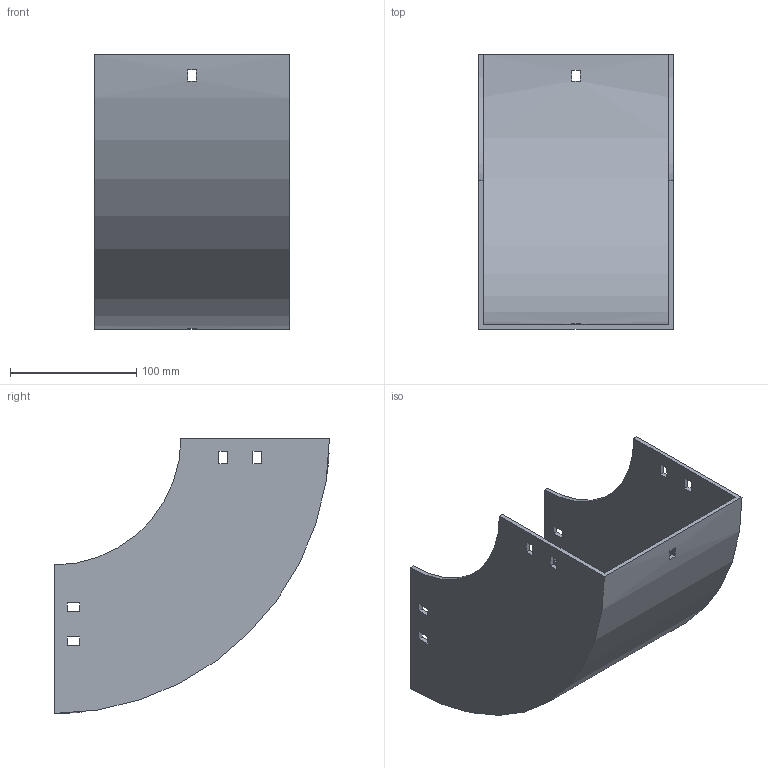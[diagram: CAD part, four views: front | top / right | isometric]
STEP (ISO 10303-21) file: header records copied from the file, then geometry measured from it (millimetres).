
FILE_DESCRIPTION (( 'STEP AP214' ), '1' );
FILE_NAME ('30B1J150.step', '2025-02-21T09:48:58', ( '' ), ( '' ), 'SwSTEP 2.0', 'SolidWorks 2023', '' );
FILE_SCHEMA (( 'AUTOMOTIVE_DESIGN' ));
Length unit declared in the file: millimetre
Products named in the file (1): 30B1J150
Bounding box: 154 x 217.5 x 217.5 mm (x, y, z)
Volume: 377094.8 mm3; surface area: 220445.2 mm2
Topology: 1 solids, 1 shells, 50 faces, 144 edges, 96 vertices
Faces by surface type: plane 46, cylinder 4
Entity records: 1687 total; most frequent: CARTESIAN_POINT 291, ORIENTED_EDGE 288, DIRECTION 262, EDGE_CURVE 144, LINE 128, VECTOR 128, VERTEX_POINT 96, EDGE_LOOP 70
